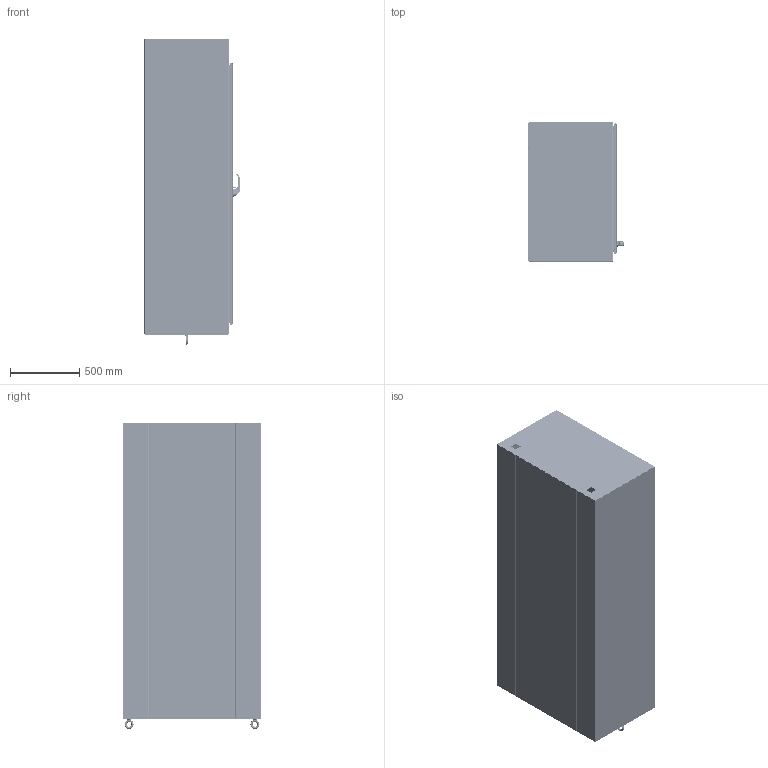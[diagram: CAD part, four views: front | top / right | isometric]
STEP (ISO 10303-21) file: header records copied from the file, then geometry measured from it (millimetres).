
FILE_DESCRIPTION((''),'2;1');
FILE_NAME('MODEL-436_ASM','2024-06-05T09:43:36',('johnh'),('SAGINAW CONTROL & ENGINEERING'),'CREO PARAMETRIC BY PTC INC, 2021284','CREO PARAMETRIC BY PTC INC, 2021284','');
FILE_SCHEMA(('AUTOMOTIVE_DESIGN { 1 0 10303 214 1 1 1 1 }'));
Length unit declared in the file: inch
Products named in the file (64): MODEL-436-L-SD; MODEL-436-TP; MODEL-436-R-SD; MODEL-436-BTM; MODEL-436-DR; 100837; 111267; 100882; 100953_SCREW_MTG; 100953_PADLOCK_CATCH; 100953_SCREW_LARGE; 100953_INSERT_SHAFT; 100953_INSERT_PCH; 100953_GASKET; 100953_O-RING; 100953_BASE; 100953_SPRING; 100953_HANDLE; 100953_CAM_SHAFT; 100953_HANDLE_ASM; 100953_CAM_ADAPTER; 100953_EARTH_NUT; 100953_FLANGE_NUT; 100953_CAM_NUT; 100953_CP_INSERT; 100953_SPRING_CAM; 100953_TORSION_SPRING; 100953_SCREW_INSERT; 100953_ASM; 102237; 100030; 102237_ASM; MODEL-436-ROD-UPR; 128146; 128145; 128144; 102482; MODEL-436-ROD-UPR_ASM; 128143; 112504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
Assembly tree (127 placements, depth 5):
  MODEL-436_ASM
    MODEL-436-L-SD
    MODEL-436-TP
    MODEL-436-R-SD
    MODEL-436-BTM
    MODEL-436-DOOR-ASSY_ASM
      MODEL-436-DR
      100837  x7
      111267
      100882  x12
      100953_ASM
        100953_SCREW_MTG
        100953_PADLOCK_CATCH
        100953_SCREW_LARGE  x2
        100953_INSERT_SHAFT
        100953_INSERT_PCH
        100953_GASKET
        100953_O-RING
        100953_BASE
        100953_SPRING
        100953_HANDLE_ASM
          100953_HANDLE
          100953_CAM_SHAFT
        100953_CAM_ADAPTER
        100953_EARTH_NUT
        100953_FLANGE_NUT
        100953_CAM_NUT
        100953_CP_INSERT
        100953_SPRING_CAM
        100953_TORSION_SPRING
        100953_SCREW_INSERT
      102237_ASM
        102237
        100030  x2
      MODEL-436-ROD-UPR_ASM
        MODEL-436-ROD-UPR
        128146
        128145
        128144
        102482  x2
      128143  x2
      112504  x2
      MODEL-436-ROD-LWR_ASM
        MODEL-436-ROD-LWR
        128146
        128145
        128144
        102482  x2
      MODEL-436-PR-GSKT
      128257_ASM  x4
        128257
      126393  x4
      102483  x4
      101369_ASM  x4
        101369
        101369-STUD
      101221  x4
    MODEL-436-BCK
    100837  x4
    103357
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Bounding box: 687.67 x 1003.3 x 2208.4 mm (x, y, z)
Volume: 29149207.2 mm3; surface area: 21146540.4 mm2
Topology: 133 solids, 133 shells, 12560 faces, 31910 edges, 19674 vertices
Faces by surface type: plane 4272, cylinder 3294, bspline 3010, torus 932, cone 692, sphere 330, extrusion 30
Entity records: 363350 total; most frequent: CARTESIAN_POINT 150366, ORIENTED_EDGE 33188, DIRECTION 30120, PRESENTATION_STYLE_ASSIGNMENT 16627, STYLED_ITEM 16622, EDGE_CURVE 16594, CURVE_STYLE 16546, AXIS2_PLACEMENT_3D 11301
